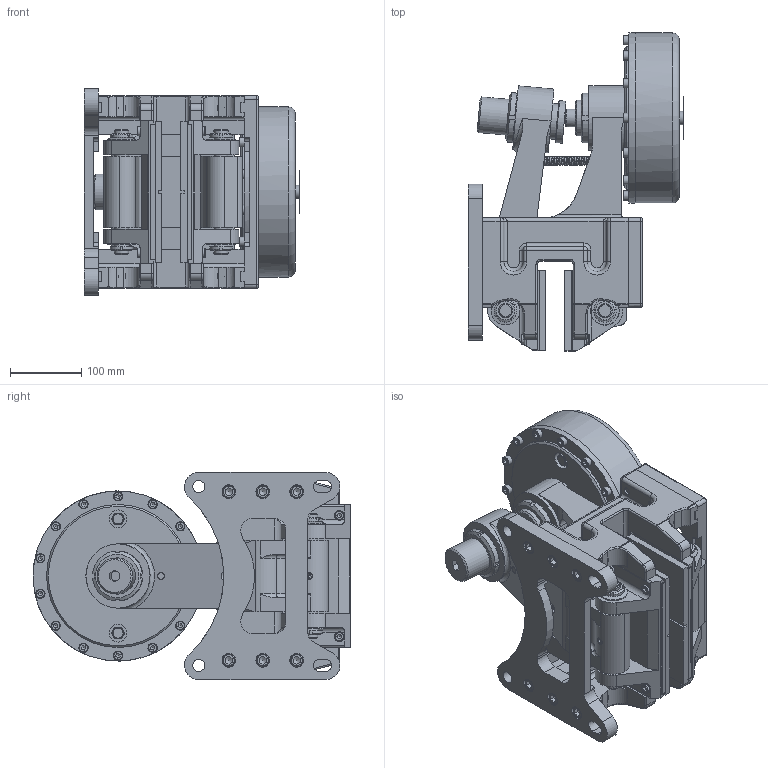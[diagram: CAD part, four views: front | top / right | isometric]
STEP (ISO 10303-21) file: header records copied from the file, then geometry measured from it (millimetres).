
FILE_DESCRIPTION(/* description */ ('','CAx-IF Rec.Pracs.---Representation and Presentation of Product Manufacturing Information (PMI)---4.0---2014-10-13'),/* implementation_level */ '2;1');
FILE_NAME(/* name */ 'X:\INVENTOR\DISEGNI\19_Pinze\STEP x Sito\PNEUM-POSITIVE\19_16_660_04 PPTP660_25,4.stp',/* time_stamp */ '2018-10-29T09:05:08+01:00',/* author */ ('stefano'),/* organization */ (''),/* preprocessor_version */ 'ST-DEVELOPER v17',/* originating_system */ 'Autodesk Inventor 2018',/* authorisation */ '');
FILE_SCHEMA (('AP242_MANAGED_MODEL_BASED_3D_ENGINEERING_MIM_LF { 1 0 10303 442 1 1 4 }'));
Length unit declared in the file: millimetre
Products named in the file (1): 19_16_660_04 PPTP660_25,4_Substitute_1
Bounding box: 302.1 x 445 x 290 mm (x, y, z)
Volume: 11176119.5 mm3; surface area: 1030051.6 mm2
Topology: 1 solids, 1 shells, 1593 faces, 4391 edges, 2865 vertices
Faces by surface type: plane 802, cylinder 434, torus 184, cone 128, bspline 29, sphere 16
Full cylindrical faces by diameter (mm): 1.8 x2, 3 x1, 5.188 x1, 7.4 x1, 7.5 x2, 8 x9, 8.376 x1, 8.5 x8, 8.917 x2, 9 x1, 9.188 x1, 10 x2, 10.106 x12, 10.5 x4, 12 x12, 12.5 x12, 13 x22, 13.5 x8, 14 x1, 16.5 x4, 17 x2, 18 x13, 18.631 x1, 19 x12, 20 x12, 22 x6, 25 x7, 28 x1, 33.6 x1, 50 x3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
Entity records: 59994 total; most frequent: CARTESIAN_POINT 17803, ORIENTED_EDGE 8666, DIRECTION 8601, EDGE_CURVE 4333, AXIS2_PLACEMENT_3D 3251, VERTEX_POINT 2865, LINE 2099, VECTOR 2099
